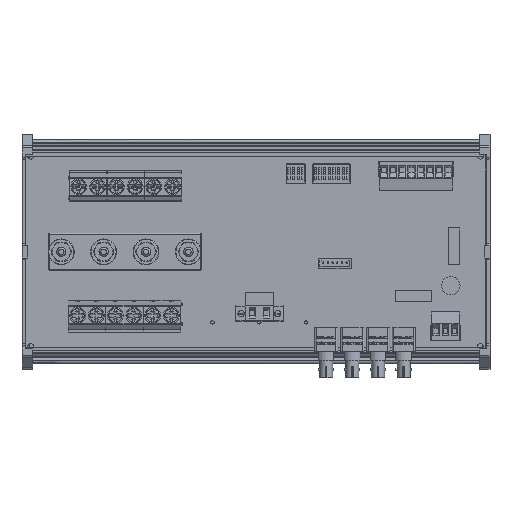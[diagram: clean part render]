
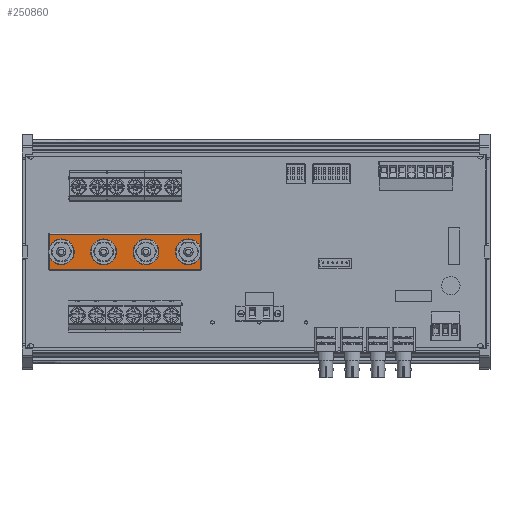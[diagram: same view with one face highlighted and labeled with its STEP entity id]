
A CAD part, top view. The second image highlights one B-rep face of the part: STEP entity #250860.
In plain terms, the highlighted planar face has unit normal (0, 0, 1).
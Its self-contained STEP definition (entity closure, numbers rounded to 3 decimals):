
#250283 = CYLINDRICAL_SURFACE('',#250284,0.5);
#250284 = AXIS2_PLACEMENT_3D('',#250285,#250286,#250287);
#250285 = CARTESIAN_POINT('',(0.5,0.,4.5));
#250286 = DIRECTION('',(0.,1.,0.));
#250287 = DIRECTION('',(-1.,0.,0.));
#250466 = VERTEX_POINT('',#250467);
#250467 = CARTESIAN_POINT('',(0.5,0.5,5.));
#250487 = EDGE_CURVE('',#250466,#250488,#250490,.T.);
#250488 = VERTEX_POINT('',#250489);
#250489 = CARTESIAN_POINT('',(0.5,19.5,5.));
#250490 = SURFACE_CURVE('',#250491,(#250495,#250502),.PCURVE_S1.);
#250491 = LINE('',#250492,#250493);
#250492 = CARTESIAN_POINT('',(0.5,0.,5.));
#250493 = VECTOR('',#250494,1.);
#250494 = DIRECTION('',(0.,1.,0.));
#250495 = PCURVE('',#250283,#250496);
#250496 = DEFINITIONAL_REPRESENTATION('',(#250497),#250501);
#250497 = LINE('',#250498,#250499);
#250498 = CARTESIAN_POINT('',(1.571,0.));
#250499 = VECTOR('',#250500,1.);
#250500 = DIRECTION('',(0.,1.));
#250501 = ( GEOMETRIC_REPRESENTATION_CONTEXT(2) 
PARAMETRIC_REPRESENTATION_CONTEXT() REPRESENTATION_CONTEXT('2D SPACE',''
  ) );
#250502 = PCURVE('',#250503,#250508);
#250503 = PLANE('',#250504);
#250504 = AXIS2_PLACEMENT_3D('',#250505,#250506,#250507);
#250505 = CARTESIAN_POINT('',(0.,0.,5.));
#250506 = DIRECTION('',(0.,0.,1.));
#250507 = DIRECTION('',(1.,0.,0.));
#250508 = DEFINITIONAL_REPRESENTATION('',(#250509),#250513);
#250509 = LINE('',#250510,#250511);
#250510 = CARTESIAN_POINT('',(0.5,0.));
#250511 = VECTOR('',#250512,1.);
#250512 = DIRECTION('',(0.,1.));
#250513 = ( GEOMETRIC_REPRESENTATION_CONTEXT(2) 
PARAMETRIC_REPRESENTATION_CONTEXT() REPRESENTATION_CONTEXT('2D SPACE',''
  ) );
#250667 = CYLINDRICAL_SURFACE('',#250668,0.5);
#250668 = AXIS2_PLACEMENT_3D('',#250669,#250670,#250671);
#250669 = CARTESIAN_POINT('',(0.,0.5,4.5));
#250670 = DIRECTION('',(1.,0.,0.));
#250671 = DIRECTION('',(0.,-1.,0.));
#250860 = ADVANCED_FACE('',(#250861),#250503,.T.);
#250861 = FACE_BOUND('',#250862,.T.);
#250862 = EDGE_LOOP('',(#250863,#250864,#250887,#250915));
#250863 = ORIENTED_EDGE('',*,*,#250487,.F.);
#250864 = ORIENTED_EDGE('',*,*,#250865,.T.);
#250865 = EDGE_CURVE('',#250466,#250866,#250868,.T.);
#250866 = VERTEX_POINT('',#250867);
#250867 = CARTESIAN_POINT('',(82.5,0.5,5.));
#250868 = SURFACE_CURVE('',#250869,(#250873,#250880),.PCURVE_S1.);
#250869 = LINE('',#250870,#250871);
#250870 = CARTESIAN_POINT('',(0.,0.5,5.));
#250871 = VECTOR('',#250872,1.);
#250872 = DIRECTION('',(1.,0.,0.));
#250873 = PCURVE('',#250503,#250874);
#250874 = DEFINITIONAL_REPRESENTATION('',(#250875),#250879);
#250875 = LINE('',#250876,#250877);
#250876 = CARTESIAN_POINT('',(0.,0.5));
#250877 = VECTOR('',#250878,1.);
#250878 = DIRECTION('',(1.,0.));
#250879 = ( GEOMETRIC_REPRESENTATION_CONTEXT(2) 
PARAMETRIC_REPRESENTATION_CONTEXT() REPRESENTATION_CONTEXT('2D SPACE',''
  ) );
#250880 = PCURVE('',#250667,#250881);
#250881 = DEFINITIONAL_REPRESENTATION('',(#250882),#250886);
#250882 = LINE('',#250883,#250884);
#250883 = CARTESIAN_POINT('',(4.712,0.));
#250884 = VECTOR('',#250885,1.);
#250885 = DIRECTION('',(0.,1.));
#250886 = ( GEOMETRIC_REPRESENTATION_CONTEXT(2) 
PARAMETRIC_REPRESENTATION_CONTEXT() REPRESENTATION_CONTEXT('2D SPACE',''
  ) );
#250887 = ORIENTED_EDGE('',*,*,#250888,.T.);
#250888 = EDGE_CURVE('',#250866,#250889,#250891,.T.);
#250889 = VERTEX_POINT('',#250890);
#250890 = CARTESIAN_POINT('',(82.5,19.5,5.));
#250891 = SURFACE_CURVE('',#250892,(#250896,#250903),.PCURVE_S1.);
#250892 = LINE('',#250893,#250894);
#250893 = CARTESIAN_POINT('',(82.5,0.,5.));
#250894 = VECTOR('',#250895,1.);
#250895 = DIRECTION('',(0.,1.,0.));
#250896 = PCURVE('',#250503,#250897);
#250897 = DEFINITIONAL_REPRESENTATION('',(#250898),#250902);
#250898 = LINE('',#250899,#250900);
#250899 = CARTESIAN_POINT('',(82.5,0.));
#250900 = VECTOR('',#250901,1.);
#250901 = DIRECTION('',(0.,1.));
#250902 = ( GEOMETRIC_REPRESENTATION_CONTEXT(2) 
PARAMETRIC_REPRESENTATION_CONTEXT() REPRESENTATION_CONTEXT('2D SPACE',''
  ) );
#250903 = PCURVE('',#250904,#250909);
#250904 = CYLINDRICAL_SURFACE('',#250905,0.5);
#250905 = AXIS2_PLACEMENT_3D('',#250906,#250907,#250908);
#250906 = CARTESIAN_POINT('',(82.5,0.,4.5));
#250907 = DIRECTION('',(0.,1.,0.));
#250908 = DIRECTION('',(1.,0.,0.));
#250909 = DEFINITIONAL_REPRESENTATION('',(#250910),#250914);
#250910 = LINE('',#250911,#250912);
#250911 = CARTESIAN_POINT('',(4.712,0.));
#250912 = VECTOR('',#250913,1.);
#250913 = DIRECTION('',(0.,1.));
#250914 = ( GEOMETRIC_REPRESENTATION_CONTEXT(2) 
PARAMETRIC_REPRESENTATION_CONTEXT() REPRESENTATION_CONTEXT('2D SPACE',''
  ) );
#250915 = ORIENTED_EDGE('',*,*,#250916,.F.);
#250916 = EDGE_CURVE('',#250488,#250889,#250917,.T.);
#250917 = SURFACE_CURVE('',#250918,(#250922,#250929),.PCURVE_S1.);
#250918 = LINE('',#250919,#250920);
#250919 = CARTESIAN_POINT('',(0.,19.5,5.));
#250920 = VECTOR('',#250921,1.);
#250921 = DIRECTION('',(1.,0.,0.));
#250922 = PCURVE('',#250503,#250923);
#250923 = DEFINITIONAL_REPRESENTATION('',(#250924),#250928);
#250924 = LINE('',#250925,#250926);
#250925 = CARTESIAN_POINT('',(0.,19.5));
#250926 = VECTOR('',#250927,1.);
#250927 = DIRECTION('',(1.,0.));
#250928 = ( GEOMETRIC_REPRESENTATION_CONTEXT(2) 
PARAMETRIC_REPRESENTATION_CONTEXT() REPRESENTATION_CONTEXT('2D SPACE',''
  ) );
#250929 = PCURVE('',#250930,#250935);
#250930 = CYLINDRICAL_SURFACE('',#250931,0.5);
#250931 = AXIS2_PLACEMENT_3D('',#250932,#250933,#250934);
#250932 = CARTESIAN_POINT('',(0.,19.5,4.5));
#250933 = DIRECTION('',(1.,0.,0.));
#250934 = DIRECTION('',(0.,1.,0.));
#250935 = DEFINITIONAL_REPRESENTATION('',(#250936),#250940);
#250936 = LINE('',#250937,#250938);
#250937 = CARTESIAN_POINT('',(1.571,0.));
#250938 = VECTOR('',#250939,1.);
#250939 = DIRECTION('',(0.,1.));
#250940 = ( GEOMETRIC_REPRESENTATION_CONTEXT(2) 
PARAMETRIC_REPRESENTATION_CONTEXT() REPRESENTATION_CONTEXT('2D SPACE',''
  ) );
